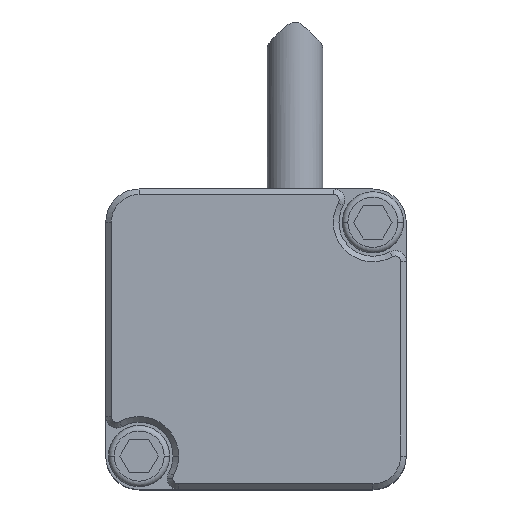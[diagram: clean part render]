
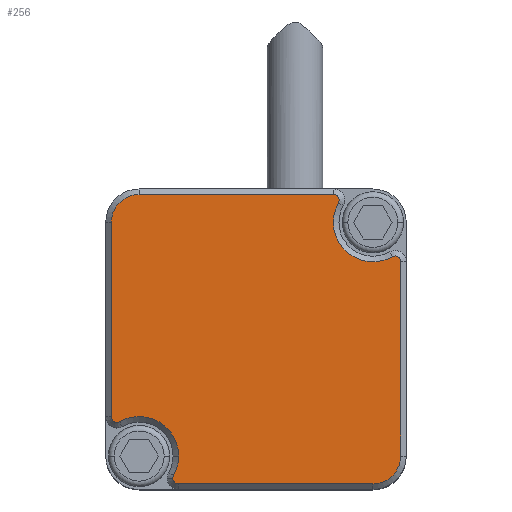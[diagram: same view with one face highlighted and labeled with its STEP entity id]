
A CAD part, top view. The second image highlights one B-rep face of the part: STEP entity #256.
In plain terms, the highlighted planar face has unit normal (0, 0, 1).
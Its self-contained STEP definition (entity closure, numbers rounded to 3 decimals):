
#163=PLANE('',#1816);
#256=ADVANCED_FACE('',(#383),#163,.T.);
#383=FACE_OUTER_BOUND('',#482,.T.);
#482=EDGE_LOOP('',(#818,#819,#820,#821,#822,#823,#824,#825,#826,#827,#828,
#829,#830,#831));
#562=CIRCLE('',#1723,3.55);
#563=CIRCLE('',#1725,0.5);
#616=CIRCLE('',#1808,0.5);
#617=CIRCLE('',#1809,2.5);
#618=CIRCLE('',#1810,0.5);
#619=CIRCLE('',#1811,3.55);
#620=CIRCLE('',#1812,0.5);
#621=CIRCLE('',#1813,2.5);
#622=CIRCLE('',#1814,0.5);
#623=CIRCLE('',#1815,3.55);
#818=ORIENTED_EDGE('',*,*,#1351,.T.);
#819=ORIENTED_EDGE('',*,*,#1352,.T.);
#820=ORIENTED_EDGE('',*,*,#1353,.T.);
#821=ORIENTED_EDGE('',*,*,#1354,.T.);
#822=ORIENTED_EDGE('',*,*,#1355,.T.);
#823=ORIENTED_EDGE('',*,*,#1237,.T.);
#824=ORIENTED_EDGE('',*,*,#1356,.T.);
#825=ORIENTED_EDGE('',*,*,#1357,.T.);
#826=ORIENTED_EDGE('',*,*,#1239,.T.);
#827=ORIENTED_EDGE('',*,*,#1358,.T.);
#828=ORIENTED_EDGE('',*,*,#1359,.T.);
#829=ORIENTED_EDGE('',*,*,#1360,.T.);
#830=ORIENTED_EDGE('',*,*,#1361,.T.);
#831=ORIENTED_EDGE('',*,*,#1362,.T.);
#1094=VERTEX_POINT('',#2448);
#1095=VERTEX_POINT('',#2450);
#1096=VERTEX_POINT('',#2454);
#1097=VERTEX_POINT('',#2455);
#1175=VERTEX_POINT('',#2711);
#1176=VERTEX_POINT('',#2712);
#1177=VERTEX_POINT('',#2714);
#1178=VERTEX_POINT('',#2716);
#1179=VERTEX_POINT('',#2718);
#1180=VERTEX_POINT('',#2721);
#1181=VERTEX_POINT('',#2724);
#1182=VERTEX_POINT('',#2726);
#1183=VERTEX_POINT('',#2728);
#1184=VERTEX_POINT('',#2730);
#1237=EDGE_CURVE('',#1095,#1094,#562,.T.);
#1239=EDGE_CURVE('',#1096,#1097,#563,.T.);
#1351=EDGE_CURVE('',#1175,#1176,#616,.T.);
#1352=EDGE_CURVE('',#1176,#1177,#1504,.T.);
#1353=EDGE_CURVE('',#1177,#1178,#617,.T.);
#1354=EDGE_CURVE('',#1178,#1179,#1505,.T.);
#1355=EDGE_CURVE('',#1179,#1095,#618,.T.);
#1356=EDGE_CURVE('',#1094,#1180,#619,.T.);
#1357=EDGE_CURVE('',#1180,#1096,#620,.T.);
#1358=EDGE_CURVE('',#1097,#1181,#1506,.T.);
#1359=EDGE_CURVE('',#1181,#1182,#621,.T.);
#1360=EDGE_CURVE('',#1182,#1183,#1507,.T.);
#1361=EDGE_CURVE('',#1183,#1184,#622,.T.);
#1362=EDGE_CURVE('',#1184,#1175,#623,.T.);
#1504=LINE('',#2713,#1631);
#1505=LINE('',#2717,#1632);
#1506=LINE('',#2723,#1633);
#1507=LINE('',#2727,#1634);
#1631=VECTOR('',#2163,1.);
#1632=VECTOR('',#2166,1.);
#1633=VECTOR('',#2173,1.);
#1634=VECTOR('',#2176,1.);
#1723=AXIS2_PLACEMENT_3D('',#2449,#1932,#1933);
#1725=AXIS2_PLACEMENT_3D('',#2453,#1937,#1938);
#1808=AXIS2_PLACEMENT_3D('',#2710,#2161,#2162);
#1809=AXIS2_PLACEMENT_3D('',#2715,#2164,#2165);
#1810=AXIS2_PLACEMENT_3D('',#2719,#2167,#2168);
#1811=AXIS2_PLACEMENT_3D('',#2720,#2169,#2170);
#1812=AXIS2_PLACEMENT_3D('',#2722,#2171,#2172);
#1813=AXIS2_PLACEMENT_3D('',#2725,#2174,#2175);
#1814=AXIS2_PLACEMENT_3D('',#2729,#2177,#2178);
#1815=AXIS2_PLACEMENT_3D('',#2731,#2179,#2180);
#1816=AXIS2_PLACEMENT_3D('',#2732,#2181,#2182);
#1932=DIRECTION('',(0.,0.,-1.));
#1933=DIRECTION('',(1.,0.,0.));
#1937=DIRECTION('',(0.,0.,1.));
#1938=DIRECTION('',(1.,0.,0.));
#2161=DIRECTION('',(0.,0.,1.));
#2162=DIRECTION('',(1.,0.,0.));
#2163=DIRECTION('',(-1.,0.,0.));
#2164=DIRECTION('',(0.,0.,1.));
#2165=DIRECTION('',(1.,0.,0.));
#2166=DIRECTION('',(0.,-1.,0.));
#2167=DIRECTION('',(0.,0.,1.));
#2168=DIRECTION('',(1.,0.,0.));
#2169=DIRECTION('',(0.,0.,-1.));
#2170=DIRECTION('',(1.,0.,0.));
#2171=DIRECTION('',(0.,0.,1.));
#2172=DIRECTION('',(1.,0.,0.));
#2173=DIRECTION('',(1.,0.,0.));
#2174=DIRECTION('',(0.,0.,1.));
#2175=DIRECTION('',(1.,0.,0.));
#2176=DIRECTION('',(0.,1.,0.));
#2177=DIRECTION('',(0.,0.,1.));
#2178=DIRECTION('',(1.,0.,0.));
#2179=DIRECTION('',(0.,0.,-1.));
#2180=DIRECTION('',(1.,0.,0.));
#2181=DIRECTION('',(0.,0.,1.));
#2182=DIRECTION('',(-1.,0.,0.));
#2448=CARTESIAN_POINT('',(-6.95,-10.5,28.7));
#2449=CARTESIAN_POINT('',(-10.5,-10.5,28.7));
#2450=CARTESIAN_POINT('',(-12.253,-7.413,28.7));
#2453=CARTESIAN_POINT('',(-6.978,-12.5,28.7));
#2454=CARTESIAN_POINT('',(-7.478,-12.5,28.7));
#2455=CARTESIAN_POINT('',(-6.978,-13.,28.7));
#2710=CARTESIAN_POINT('',(6.978,12.5,28.7));
#2711=CARTESIAN_POINT('',(7.413,12.253,28.7));
#2712=CARTESIAN_POINT('',(6.978,13.,28.7));
#2713=CARTESIAN_POINT('',(-10.5,13.,28.7));
#2714=CARTESIAN_POINT('',(-10.5,13.,28.7));
#2715=CARTESIAN_POINT('',(-10.5,10.5,28.7));
#2716=CARTESIAN_POINT('',(-13.,10.5,28.7));
#2717=CARTESIAN_POINT('',(-13.,-6.978,28.7));
#2718=CARTESIAN_POINT('',(-13.,-6.978,28.7));
#2719=CARTESIAN_POINT('',(-12.5,-6.978,28.7));
#2720=CARTESIAN_POINT('',(-10.5,-10.5,28.7));
#2721=CARTESIAN_POINT('',(-7.413,-12.253,28.7));
#2722=CARTESIAN_POINT('',(-6.978,-12.5,28.7));
#2723=CARTESIAN_POINT('',(10.5,-13.,28.7));
#2724=CARTESIAN_POINT('',(10.5,-13.,28.7));
#2725=CARTESIAN_POINT('',(10.5,-10.5,28.7));
#2726=CARTESIAN_POINT('',(13.,-10.5,28.7));
#2727=CARTESIAN_POINT('',(13.,6.978,28.7));
#2728=CARTESIAN_POINT('',(13.,6.978,28.7));
#2729=CARTESIAN_POINT('',(12.5,6.978,28.7));
#2730=CARTESIAN_POINT('',(12.253,7.413,28.7));
#2731=CARTESIAN_POINT('',(10.5,10.5,28.7));
#2732=CARTESIAN_POINT('',(0.,0.,28.7));
